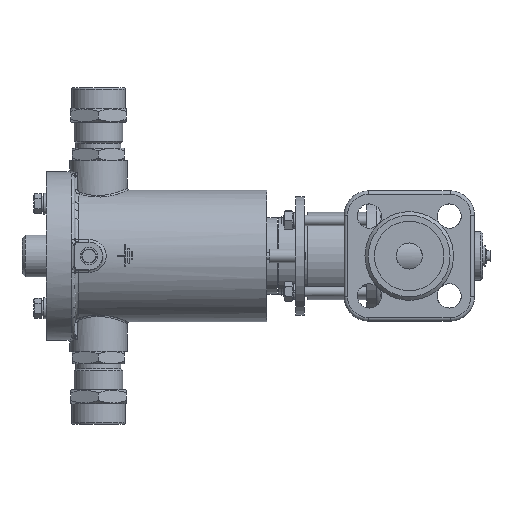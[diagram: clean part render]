
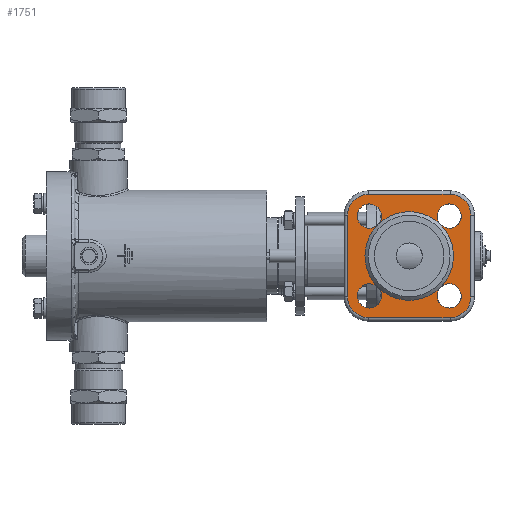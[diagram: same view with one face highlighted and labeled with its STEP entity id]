
A CAD part, left-side view. The second image highlights one B-rep face of the part: STEP entity #1751.
In plain terms, the highlighted planar face has unit normal (-1, 0, 0).
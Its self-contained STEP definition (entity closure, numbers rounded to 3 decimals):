
#1751=ADVANCED_FACE('',(#19467,#19469,#19471,#19473,#19475,#19477),#19479,.T.);
#19467=FACE_BOUND('',#19468,.T.);
#19468=EDGE_LOOP('',(#30325));
#19469=FACE_BOUND('',#19470,.T.);
#19470=EDGE_LOOP('',(#30326));
#19471=FACE_BOUND('',#19472,.T.);
#19472=EDGE_LOOP('',(#30327));
#19473=FACE_BOUND('',#19474,.T.);
#19474=EDGE_LOOP('',(#30328));
#19475=FACE_BOUND('',#19476,.T.);
#19476=EDGE_LOOP('',(#30329));
#19477=FACE_OUTER_BOUND('',#19478,.T.);
#19478=EDGE_LOOP('',(#30330,#30331,#30332,#30333,#30334,#30335,#30336,#30337));
#19479=PLANE('',#19480);
#19480=AXIS2_PLACEMENT_3D('',#19481,#19482,#19483);
#19481=CARTESIAN_POINT('',(-64.,0.,0.));
#19482=DIRECTION('',(-1.,-0.,-0.));
#19483=DIRECTION('',(0.,1.,0.));
#30325=ORIENTED_EDGE('',*,*,#39144,.T.);
#30326=ORIENTED_EDGE('',*,*,#39146,.T.);
#30327=ORIENTED_EDGE('',*,*,#39140,.T.);
#30328=ORIENTED_EDGE('',*,*,#39197,.T.);
#30329=ORIENTED_EDGE('',*,*,#39142,.T.);
#30330=ORIENTED_EDGE('',*,*,#39198,.T.);
#30331=ORIENTED_EDGE('',*,*,#39199,.T.);
#30332=ORIENTED_EDGE('',*,*,#39200,.T.);
#30333=ORIENTED_EDGE('',*,*,#39201,.T.);
#30334=ORIENTED_EDGE('',*,*,#39202,.T.);
#30335=ORIENTED_EDGE('',*,*,#39203,.T.);
#30336=ORIENTED_EDGE('',*,*,#39204,.T.);
#30337=ORIENTED_EDGE('',*,*,#39205,.T.);
#39140=EDGE_CURVE('',#46872,#46872,#46874,.F.);
#39142=EDGE_CURVE('',#46875,#46875,#46877,.F.);
#39144=EDGE_CURVE('',#46878,#46878,#46880,.F.);
#39146=EDGE_CURVE('',#46881,#46881,#46883,.F.);
#39197=EDGE_CURVE('',#46957,#46957,#46958,.T.);
#39198=EDGE_CURVE('',#46959,#46960,#46961,.T.);
#39199=EDGE_CURVE('',#46960,#46962,#46963,.T.);
#39200=EDGE_CURVE('',#46962,#46964,#46965,.T.);
#39201=EDGE_CURVE('',#46964,#46966,#46967,.T.);
#39202=EDGE_CURVE('',#46966,#46968,#46969,.T.);
#39203=EDGE_CURVE('',#46968,#46970,#46971,.T.);
#39204=EDGE_CURVE('',#46970,#46972,#46973,.T.);
#39205=EDGE_CURVE('',#46972,#46959,#46974,.T.);
#46872=VERTEX_POINT('',#73893);
#46874=CIRCLE('',#73897,7.);
#46875=VERTEX_POINT('',#73901);
#46877=CIRCLE('',#73905,7.);
#46878=VERTEX_POINT('',#73909);
#46880=CIRCLE('',#73913,7.);
#46881=VERTEX_POINT('',#73917);
#46883=CIRCLE('',#73921,7.);
#46957=VERTEX_POINT('',#74121);
#46958=CIRCLE('',#74122,25.5);
#46959=VERTEX_POINT('',#74126);
#46960=VERTEX_POINT('',#74127);
#46961=LINE('',#74128,#74129);
#46962=VERTEX_POINT('',#74131);
#46963=CIRCLE('',#74132,12.);
#46964=VERTEX_POINT('',#74136);
#46965=LINE('',#74137,#74138);
#46966=VERTEX_POINT('',#74140);
#46967=CIRCLE('',#74141,12.);
#46968=VERTEX_POINT('',#74145);
#46969=LINE('',#74146,#74147);
#46970=VERTEX_POINT('',#74149);
#46971=CIRCLE('',#74150,12.);
#46972=VERTEX_POINT('',#74154);
#46973=LINE('',#74155,#74156);
#46974=CIRCLE('',#74158,12.);
#73893=CARTESIAN_POINT('',(-64.,-22.981,-29.981));
#73897=AXIS2_PLACEMENT_3D('',#73898,#73899,#73900);
#73898=CARTESIAN_POINT('',(-64.,-22.981,-22.981));
#73899=DIRECTION('',(-1.,-0.,-0.));
#73900=DIRECTION('',(0.,0.,-1.));
#73901=CARTESIAN_POINT('',(-64.,-22.981,15.981));
#73905=AXIS2_PLACEMENT_3D('',#73906,#73907,#73908);
#73906=CARTESIAN_POINT('',(-64.,-22.981,22.981));
#73907=DIRECTION('',(-1.,-0.,-0.));
#73908=DIRECTION('',(0.,0.,-1.));
#73909=CARTESIAN_POINT('',(-64.,22.981,15.981));
#73913=AXIS2_PLACEMENT_3D('',#73914,#73915,#73916);
#73914=CARTESIAN_POINT('',(-64.,22.981,22.981));
#73915=DIRECTION('',(-1.,-0.,-0.));
#73916=DIRECTION('',(0.,0.,-1.));
#73917=CARTESIAN_POINT('',(-64.,22.981,-29.981));
#73921=AXIS2_PLACEMENT_3D('',#73922,#73923,#73924);
#73922=CARTESIAN_POINT('',(-64.,22.981,-22.981));
#73923=DIRECTION('',(-1.,-0.,-0.));
#73924=DIRECTION('',(0.,0.,-1.));
#74121=CARTESIAN_POINT('',(-64.,25.5,0.));
#74122=AXIS2_PLACEMENT_3D('',#74123,#74124,#74125);
#74123=CARTESIAN_POINT('',(-64.,0.,0.));
#74124=DIRECTION('',(1.,0.,0.));
#74125=DIRECTION('',(0.,1.,0.));
#74126=CARTESIAN_POINT('',(-64.,23.5,-35.5));
#74127=CARTESIAN_POINT('',(-64.,-23.5,-35.5));
#74128=CARTESIAN_POINT('',(-64.,23.5,-35.5));
#74129=VECTOR('',#74130,1.);
#74130=DIRECTION('',(0.,-1.,0.));
#74131=CARTESIAN_POINT('',(-64.,-35.5,-23.5));
#74132=AXIS2_PLACEMENT_3D('',#74133,#74134,#74135);
#74133=CARTESIAN_POINT('',(-64.,-23.5,-23.5));
#74134=DIRECTION('',(-1.,0.,-0.));
#74135=DIRECTION('',(0.,0.,-1.));
#74136=CARTESIAN_POINT('',(-64.,-35.5,23.5));
#74137=CARTESIAN_POINT('',(-64.,-35.5,-23.5));
#74138=VECTOR('',#74139,1.);
#74139=DIRECTION('',(0.,0.,1.));
#74140=CARTESIAN_POINT('',(-64.,-23.5,35.5));
#74141=AXIS2_PLACEMENT_3D('',#74142,#74143,#74144);
#74142=CARTESIAN_POINT('',(-64.,-23.5,23.5));
#74143=DIRECTION('',(-1.,-0.,0.));
#74144=DIRECTION('',(0.,-1.,0.));
#74145=CARTESIAN_POINT('',(-64.,23.5,35.5));
#74146=CARTESIAN_POINT('',(-64.,-23.5,35.5));
#74147=VECTOR('',#74148,1.);
#74148=DIRECTION('',(0.,1.,0.));
#74149=CARTESIAN_POINT('',(-64.,35.5,23.5));
#74150=AXIS2_PLACEMENT_3D('',#74151,#74152,#74153);
#74151=CARTESIAN_POINT('',(-64.,23.5,23.5));
#74152=DIRECTION('',(-1.,0.,0.));
#74153=DIRECTION('',(0.,0.,1.));
#74154=CARTESIAN_POINT('',(-64.,35.5,-23.5));
#74155=CARTESIAN_POINT('',(-64.,35.5,23.5));
#74156=VECTOR('',#74157,1.);
#74157=DIRECTION('',(0.,0.,-1.));
#74158=AXIS2_PLACEMENT_3D('',#74159,#74160,#74161);
#74159=CARTESIAN_POINT('',(-64.,23.5,-23.5));
#74160=DIRECTION('',(-1.,0.,0.));
#74161=DIRECTION('',(0.,1.,0.));
